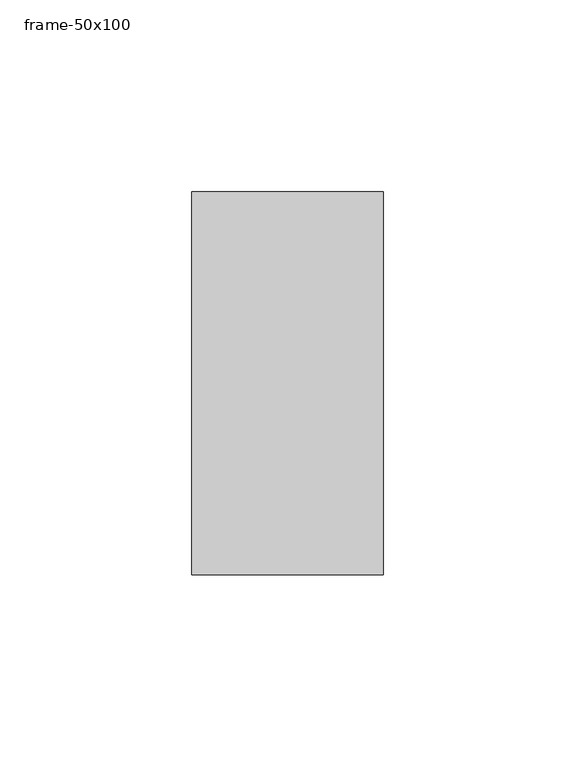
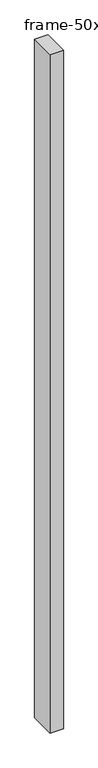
"""IFC4 building model written with IfcOpenShell, lengths in millimetres: member geometry, 長方形マリオン : frame-50x100."""

from ifc_helpers import new_model, si_unit, frame, origin, place, context, project, spatial, polyline, outline, extrude, source, transform, mapped, element, save


def frame_50x100_849c561a(model_context):
    return source(origin(), model_context, "Body", "SweptSolid", [
        extrude(outline(polyline([(0.0, 50.0), (0.0, -50.0), (-50.0, -50.0), (-50.0, 50.0), (0.0, 50.0)])), frame((0.0, 0.0, -2700.0), z_axis=(0.0, 0.0, 1.0), x_axis=(1.0, 0.0, 0.0)), (0.0, 0.0, 1.0), 2700.0),
    ])


if __name__ == "__main__":
    model = new_model("IFC4")
    model_context = context("Model", 3, world=origin())
    ifc_project = project(units=[si_unit("LENGTHUNIT", "METRE", prefix="MILLI")], contexts=[model_context])
    site = spatial("IfcSite", under=ifc_project)
    building = spatial("IfcBuilding", under=site)
    placement = place(None, origin())
    frame_50x100_shape = frame_50x100_849c561a(model_context)
    element("IfcMember", 1, ObjectType="長方形マリオン : frame-50x100", at=placement, inside=building, context=model_context, shape_type="MappedRepresentation", body=[
        mapped(frame_50x100_shape, transform((0.0, 0.0, 0.0), x_axis=(1.0, 0.0, 0.0), y_axis=(0.0, 1.0, 0.0), z_axis=(0.0, 0.0, 1.0))),
    ])
    save(model, "model.ifc")
